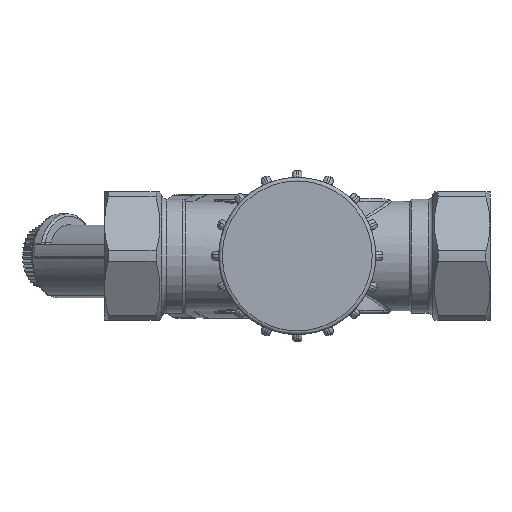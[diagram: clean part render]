
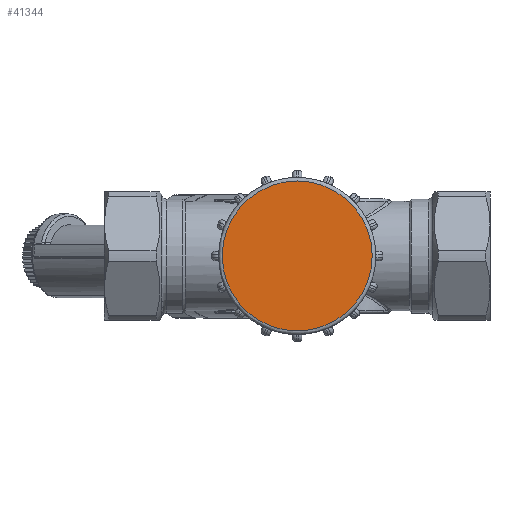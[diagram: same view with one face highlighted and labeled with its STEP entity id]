
A CAD part, top view. The second image highlights one B-rep face of the part: STEP entity #41344.
In plain terms, the highlighted planar face has unit normal (0, 0, 1).
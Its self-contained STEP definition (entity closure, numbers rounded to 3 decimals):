
#41244=CARTESIAN_POINT('',(-21.5,19.75,22.));
#41245=VERTEX_POINT('',#41244);
#41246=CARTESIAN_POINT('',(-21.5,4.,22.));
#41247=DIRECTION('',(0.0,0.0,-1.0));
#41248=DIRECTION('',(0.0,-1.0,0.0));
#41249=AXIS2_PLACEMENT_3D('',#41246,#41247,#41248);
#41250=CIRCLE('',#41249,15.75);
#41251=EDGE_CURVE('',#41245,#41245,#41250,.T.);
#41336=CARTESIAN_POINT('',(-21.5,12.25,22.));
#41337=DIRECTION('',(0.0,0.0,1.0));
#41338=DIRECTION('',(1.0,0.0,0.0));
#41339=AXIS2_PLACEMENT_3D('',#41336,#41337,#41338);
#41340=PLANE('',#41339);
#41341=ORIENTED_EDGE('',*,*,#41251,.F.);
#41342=EDGE_LOOP('',(#41341));
#41343=FACE_OUTER_BOUND('',#41342,.T.);
#41344=ADVANCED_FACE('',(#41343),#41340,.T.);
